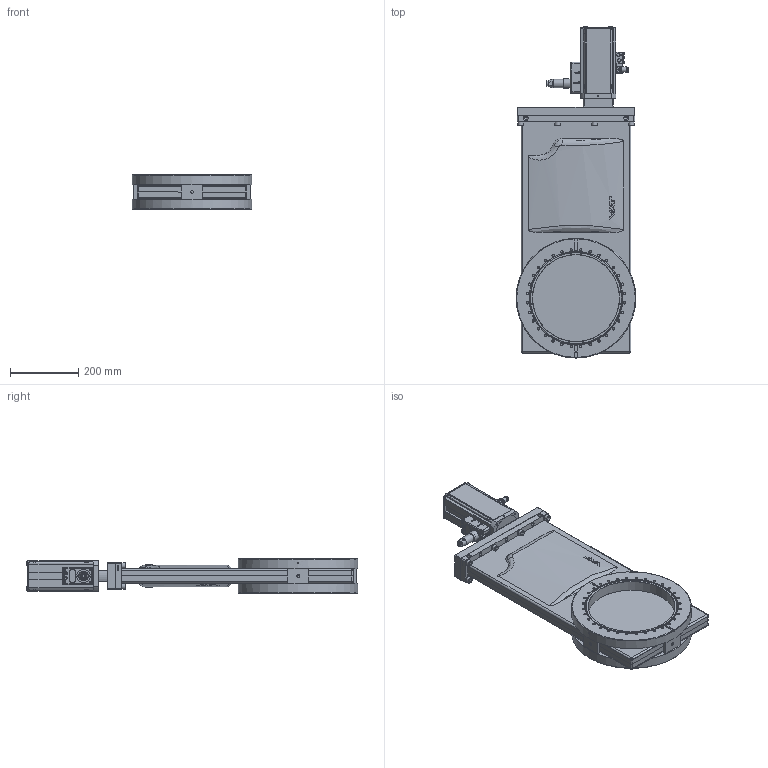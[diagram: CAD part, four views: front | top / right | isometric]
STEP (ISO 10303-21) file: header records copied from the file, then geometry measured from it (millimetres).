
FILE_DESCRIPTION(/* description */ (''),/* implementation_level */ '2;1');
FILE_NAME(/* name */ '1621463525_203.stp',/* time_stamp */ '2021-11-16T08:02:13+01:00',/* author */ (''),/* organization */ (''),/* preprocessor_version */ 'ST-DEVELOPER v16.7',/* originating_system */ 'SIEMENS PLM Software NX 1915',/* authorisation */ '');
FILE_SCHEMA (('AP203_CONFIGURATION_CONTROLLED_3D_DESIGN_OF_MECHANICAL_PARTS_AND_ASSEMBLIES_MIM_LF { 1 0 10303 403 2 1 2}'));
Length unit declared in the file: millimetre
Products named in the file (34): 209489_1.1; 436171_32020ID; 436171_32023ID; 65664-01.2_31863ID; 982213; 467882; 437235; 210324.3_32016ID; 210324.3_32017ID; 77900.1; 70973-01.1; n-8504-002; n-6024-548.1; N-6024-571.1; 85949-01.1; 72770-01.4; N-7557-016_1.1; N-7557-018.1; N-7557-016_2.1; N-6024-524.1; N-5018-005.1; 507356; 920048; N-5019-840.1; 65313-01.1; n-6134-410; 210260.1; 206808.2_MODEL; 775146_MODEL; 94225-01.1; 94238-R1.4; N-7557-016_3.1_MODELNX-ARRAGMNTArrangement 1; 94800-r1.7_NX-ARRAGMNTKONFIG1; 1001021
Assembly tree (64 placements, depth 4):
  1001021
    94800-r1.7_NX-ARRAGMNTKONFIG1
      N-5018-005.1  x2
      N-6024-524.1  x6
      N-7557-016_2.1
      N-7557-018.1
      N-7557-016_1.1
      N-7557-016_3.1_MODELNX-ARRAGMNTArrangement 1
        437235
        467882
        982213
    n-6134-410  x8
    65313-01.1
    N-5019-840.1  x8
    94238-R1.4
      72770-01.4  x4
      85949-01.1
      N-6024-571.1  x4
      94225-01.1
        65664-01.2_31863ID
    775146_MODEL
      n-6024-548.1  x4
      n-8504-002
      70973-01.1
    920048
    507356
    206808.2_MODEL
      210260.1
        436171_32023ID
        436171_32020ID
        209489_1.1
      77900.1  x3
      210324.3_32017ID
      210324.3_32016ID
Bounding box: 350 x 970.95 x 99.75 mm (x, y, z)
Volume: 7334191.1 mm3; surface area: 1726381.5 mm2
Topology: 74 solids, 74 shells, 2340 faces, 5999 edges, 3963 vertices
Faces by surface type: plane 1321, cylinder 634, cone 169, torus 103, extrusion 43, bspline 40, sphere 30
Full cylindrical faces by diameter (mm): 0.5 x1, 1.66 x7, 2 x1, 2.125 x1, 2.5 x8, 2.65 x1, 3 x11, 3.2 x2, 3.3 x4, 3.4 x4, 3.5 x3, 4 x6, 4.2 x4, 4.22 x1, 4.31 x4, 4.35 x2, 4.45 x4, 4.5 x2, 4.625 x2, 5 x11, 5.3 x1, 5.4 x1, 5.9 x1, 6 x19, 6.25 x2, 6.6 x4, 6.7 x1, 6.8 x64, 7 x1, 7.05 x1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
Entity records: 68163 total; most frequent: CARTESIAN_POINT 20319, DIRECTION 8639, ORIENTED_EDGE 8622, EDGE_CURVE 4311, AXIS2_PLACEMENT_3D 3211, VERTEX_POINT 3129, EDGE_LOOP 2589, VECTOR 2217
